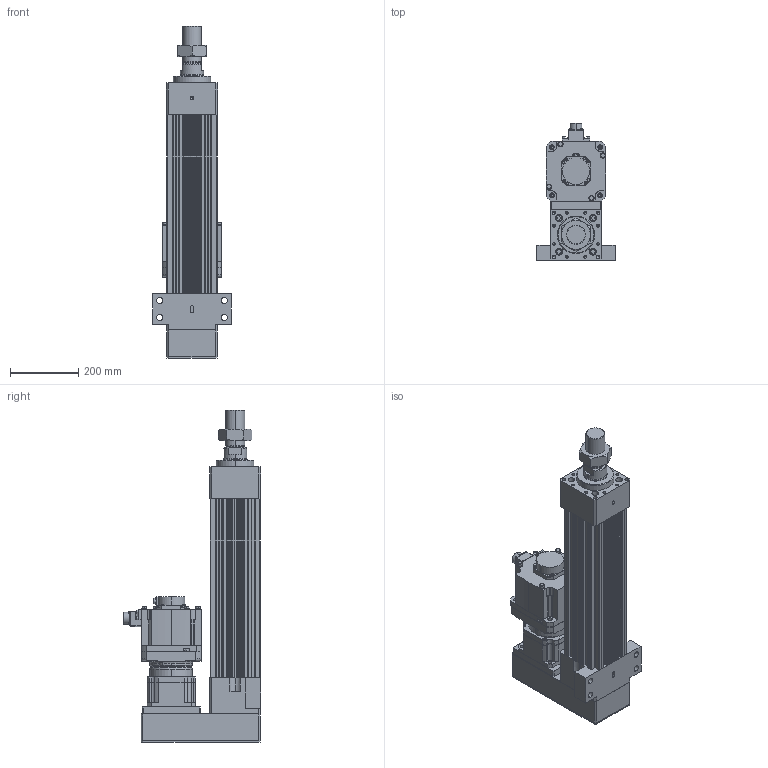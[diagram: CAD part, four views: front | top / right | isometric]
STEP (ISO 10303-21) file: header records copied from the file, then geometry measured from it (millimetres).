
FILE_DESCRIPTION (( 'STEP AP203' ), '1' );
FILE_NAME ('HES150NS(HS)-P250-W035G00-M-FFC.STEP', '2023-01-31T09:33:08', ( 'tms' ), ( '' ), 'SwSTEP 2.0', 'SolidWorks 2013', '' );
FILE_SCHEMA (( 'CONFIG_CONTROL_DESIGN' ));
Length unit declared in the file: millimetre
Products named in the file (9): HG-SR352; HES150-P250-G142-FFC; HES150 ROD M ST250; AB142-003[HG-SR352]; M56X2.0P; P1301500001; AB1421; HES150NS(HS)-P250-W035G00-M-FFC; P0403500801
Assembly tree (8 placements, depth 3):
  HES150NS(HS)-P250-W035G00-M-FFC
    HES150-P250-G142-FFC
    HES150 ROD M ST250
    M56X2.0P
    AB142-003[HG-SR352]
      AB1421
      P1301500001
      P0403500801
    HG-SR352
Bounding box: 230 x 403.85 x 976 mm (x, y, z)
Volume: 17650875.4 mm3; surface area: 1689643.5 mm2
Topology: 4 solids, 18 shells, 1470 faces, 3831 edges, 2471 vertices
Faces by surface type: cylinder 693, plane 529, cone 166, bspline 76, torus 6
Entity records: 53945 total; most frequent: CARTESIAN_POINT 16549, DIRECTION 7839, ORIENTED_EDGE 7520, EDGE_CURVE 3782, AXIS2_PLACEMENT_3D 2986, VERTEX_POINT 2471, LINE 1867, VECTOR 1867
